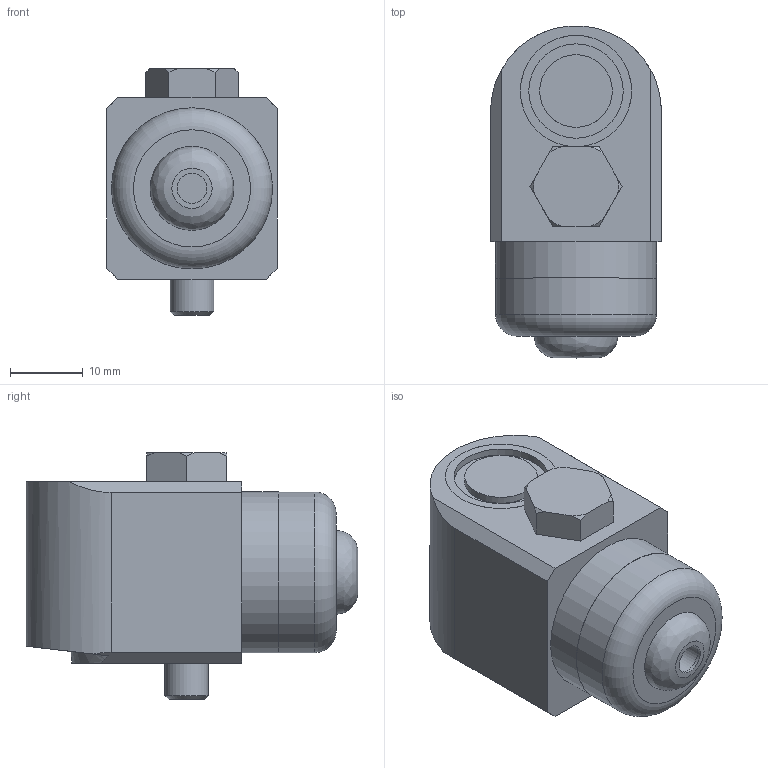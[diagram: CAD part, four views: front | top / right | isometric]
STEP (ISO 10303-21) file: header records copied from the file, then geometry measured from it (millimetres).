
FILE_DESCRIPTION(/* description */ (''),/* implementation_level */ '2;1');
FILE_NAME(/* name */ 'Z:\Engineering\Drawings\3D Library\Assemblies\Website\Premium Side\Compact\HS-170 Side Braided\HS-170SXXX0206.stp',/* time_stamp */ '2023-03-20T15:51:20+00:00',/* author */ ('Ricardo.Peneda'),/* organization */ (''),/* preprocessor_version */ 'ST-DEVELOPER v18.1',/* originating_system */ 'Autodesk Inventor 2021',/* authorisation */ '');
FILE_SCHEMA (('AUTOMOTIVE_DESIGN { 1 0 10303 214 3 1 1 }'));
Length unit declared in the file: inch
Products named in the file (1): HS-170SXXX0206_Shrinkwrap_1
Bounding box: 23.5 x 45.73 x 34 mm (x, y, z)
Volume: 14110.8 mm3; surface area: 9186.9 mm2
Topology: 4 solids, 4 shells, 67 faces, 169 edges, 123 vertices
Faces by surface type: plane 36, cylinder 19, cone 10, torus 1, bspline 1
Full cylindrical faces by diameter (mm): 2.5 x1, 4.2 x1, 4.5 x1, 6 x2, 7 x1, 10 x1, 13 x1, 13.941 x1, 14.9 x1, 15.34 x1, 15.35 x1, 17.941 x1, 19.891 x1, 20 x1, 22.141 x1, 22.2 x1
Entity records: 2270 total; most frequent: CARTESIAN_POINT 439, DIRECTION 385, ORIENTED_EDGE 338, EDGE_CURVE 169, AXIS2_PLACEMENT_3D 163, VERTEX_POINT 123, EDGE_LOOP 86, CIRCLE 85
